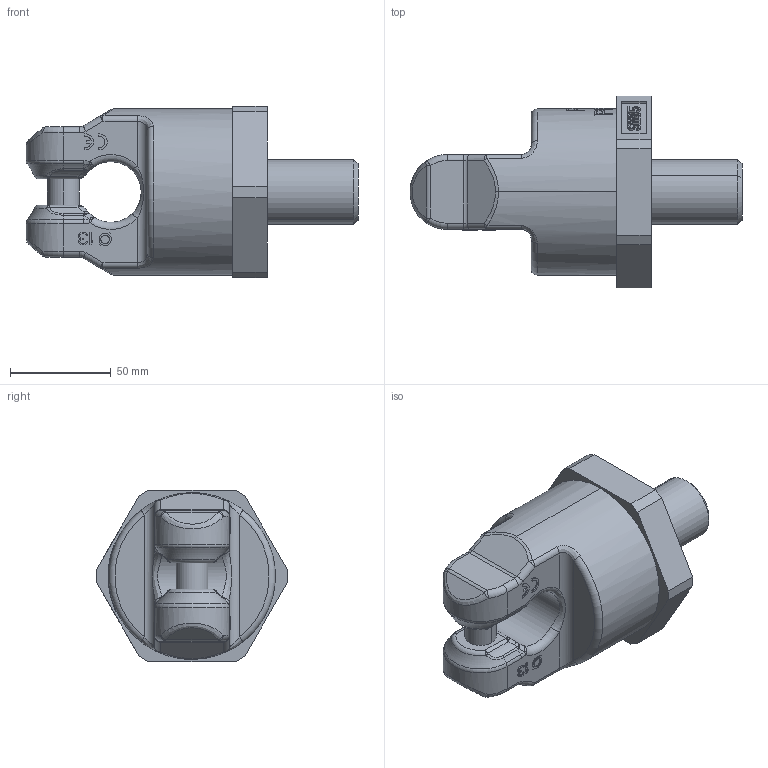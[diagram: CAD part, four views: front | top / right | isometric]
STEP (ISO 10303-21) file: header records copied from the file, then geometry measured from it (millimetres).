
FILE_DESCRIPTION((''),'2;1');
FILE_NAME('001-M35224-P-10_ASM','2019-09-12T',('anja.joas'),(''),'PRO/ENGINEER BY PARAMETRIC TECHNOLOGY CORPORATION, 2011490','PRO/ENGINEER BY PARAMETRIC TECHNOLOGY CORPORATION, 2011490','');
FILE_SCHEMA(('CONFIG_CONTROL_DESIGN'));
Length unit declared in the file: millimetre
Products named in the file (3): 001-M31395-P-20_AF0; 001-M35224-P-20; 001-M35224-P-10_ASM
Assembly tree (2 placements, depth 2):
  001-M35224-P-10_ASM
    001-M31395-P-20_AF0
    001-M35224-P-20
Bounding box: 164.38 x 95 x 85 mm (x, y, z)
Volume: 475596.6 mm3; surface area: 55572.8 mm2
Topology: 2 solids, 2 shells, 703 faces, 1880 edges, 1212 vertices
Faces by surface type: plane 535, cylinder 70, bspline 64, torus 20, sphere 12, cone 2
Entity records: 24508 total; most frequent: CARTESIAN_POINT 7626, ORIENTED_EDGE 3760, DIRECTION 3080, EDGE_CURVE 1880, VECTOR 1272, LINE 1272, VERTEX_POINT 1212, AXIS2_PLACEMENT_3D 904
